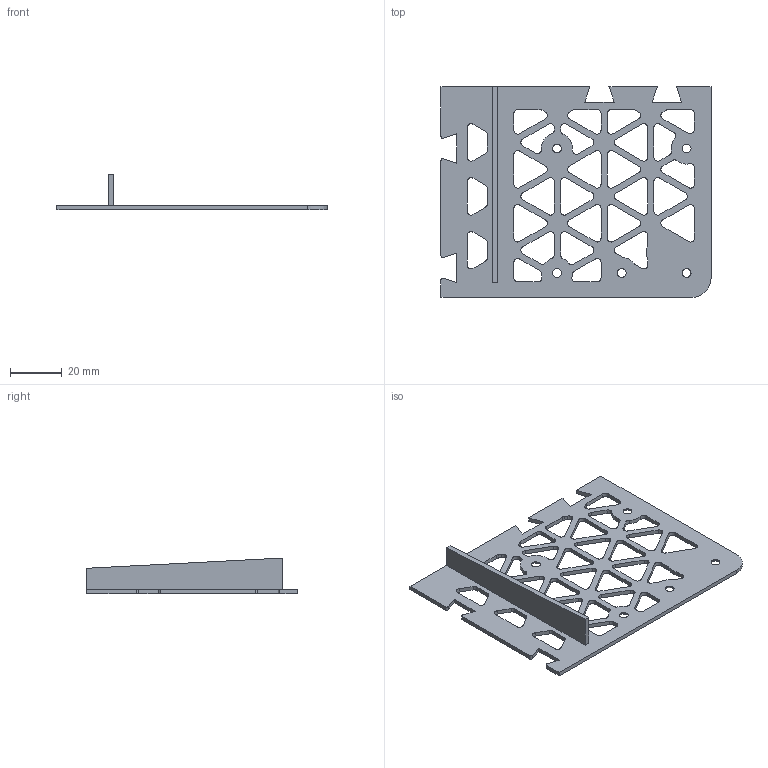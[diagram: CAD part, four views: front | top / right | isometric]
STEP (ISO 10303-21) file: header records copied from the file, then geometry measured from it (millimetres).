
FILE_DESCRIPTION(('Open CASCADE Model'),'2;1');
FILE_NAME('cover_FR','2026-11-19T00:45:43',('Author'),('Open CASCADE'), 'Open CASCADE STEP processor 8.0','build123d','Unknown');
FILE_SCHEMA(('AUTOMOTIVE_DESIGN { 1 0 10303 214 1 1 1 1 }'));
Length unit declared in the file: millimetre
Products named in the file (1): cover_FR
Bounding box: 104.08 x 81.28 x 13.83 mm (x, y, z)
Volume: 10084.2 mm3; surface area: 14969.8 mm2
Topology: 1 solids, 1 shells, 251 faces, 739 edges, 491 vertices
Faces by surface type: cylinder 126, plane 120, cone 5
Full cylindrical faces by diameter (mm): 3.4 x5, 10.5 x1
Entity records: 18442 total; most frequent: CARTESIAN_POINT 4850, DIRECTION 2278, ORIENTED_EDGE 1478, PCURVE 1478, DEFINITIONAL_REPRESENTATION 1478, LINE 1246, VECTOR 1246, EDGE_CURVE 739
